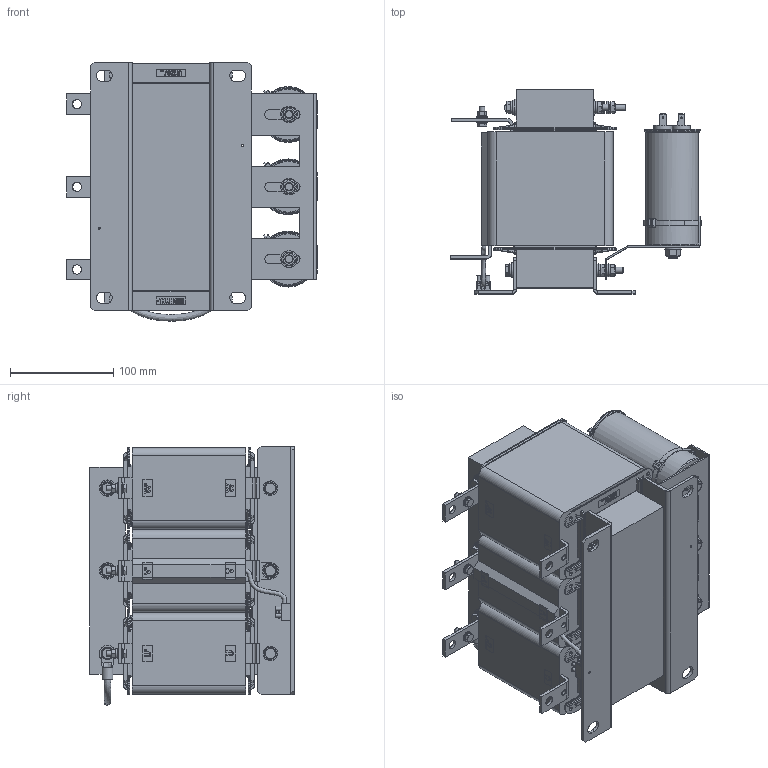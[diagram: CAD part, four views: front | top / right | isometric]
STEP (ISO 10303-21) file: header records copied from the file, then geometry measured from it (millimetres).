
FILE_DESCRIPTION(/* description */ (''),/* implementation_level */ '2;1');
FILE_NAME(/* name */ 'C:\Users\Erika.Jenzer\OneDrive - Schaffner EMV AG\BELLA\STEP FILES BELLA\FN\FN5420-75-99-E0XXT.stp',/* time_stamp */ '2021-07-07T15:40:13+02:00',/* author */ ('erika.jenzer'),/* organization */ (''),/* preprocessor_version */ 'ST-DEVELOPER v18.1',/* originating_system */ 'Autodesk Inventor 2020',/* authorisation */ '');
FILE_SCHEMA (('AUTOMOTIVE_DESIGN { 1 0 10303 214 3 1 1 }'));
Products named in the file (1): FN5420-75-99-E0XXT
Bounding box: 242.66 x 197.6 x 250.03 mm (x, y, z)
Volume: 5199851.8 mm3; surface area: 516546.8 mm2
Topology: 2 solids, 12 shells, 3768 faces, 10172 edges, 6650 vertices
Faces by surface type: plane 2620, cylinder 716, torus 165, cone 151, bspline 103, sphere 13
Full cylindrical faces by diameter (mm): 0.005 x1, 0.01 x2, 1 x1, 1.6 x12, 2.013 x2, 2.5 x1, 2.8 x5, 3.4 x4, 4 x24, 5 x6, 5.3 x6, 5.5 x6, 6 x21, 6.1 x7, 6.4 x16, 6.5 x2, 6.54 x2, 6.6 x3, 6.9 x3, 7.5 x2, 7.6 x5, 7.92 x6, 8 x6, 8.4 x3, 8.5 x4, 8.7 x6, 9 x6, 10 x6, 10.5 x2, 12 x14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
Entity records: 124872 total; most frequent: CARTESIAN_POINT 26374, ORIENTED_EDGE 20296, DIRECTION 18949, EDGE_CURVE 10148, LINE 6965, VECTOR 6965, VERTEX_POINT 6650, AXIS2_PLACEMENT_3D 5992
